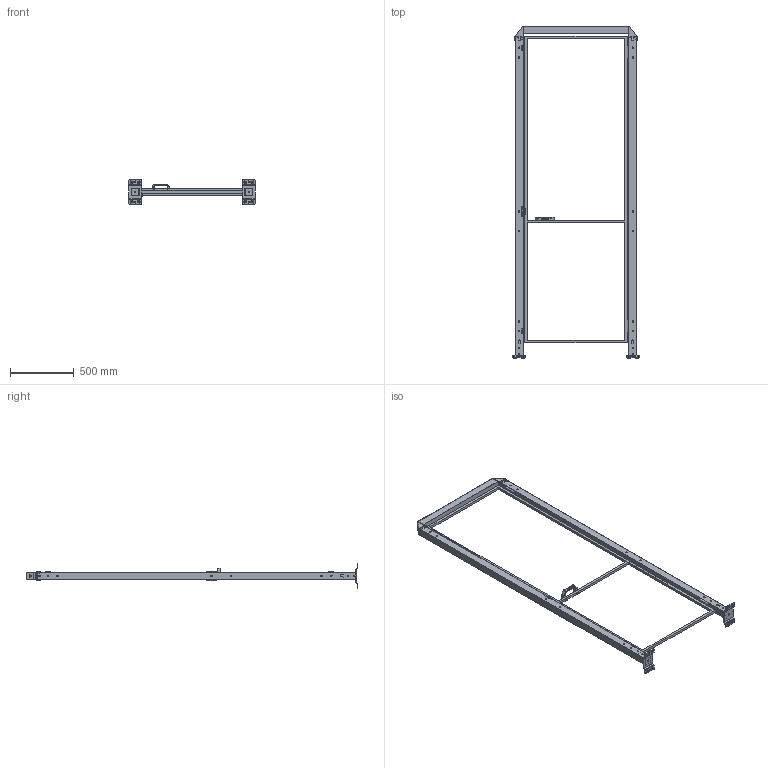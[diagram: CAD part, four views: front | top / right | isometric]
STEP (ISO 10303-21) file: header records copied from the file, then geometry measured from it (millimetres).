
FILE_DESCRIPTION(('STEP AP242'),'1');
FILE_NAME('vfda_bscndr2_08002520.stp','2025-01-23T13:51:21',('TraceParts'),('TraceParts S.A.'),'Spatial InterOp 3D',' ',' ');
FILE_SCHEMA(('AP242_MANAGED_MODEL_BASED_3D_ENGINEERING_MIM_LF {1 0 10303 442 1 1 4}'));
Length unit declared in the file: millimetre
Products named in the file (1): vfda_bscndr2_08002520_1
Bounding box: 990 x 2601 x 192 mm (x, y, z)
Volume: 5319732.7 mm3; surface area: 3546836.2 mm2
Topology: 12 solids, 12 shells, 1874 faces, 5016 edges, 3212 vertices
Faces by surface type: plane 906, cylinder 628, bspline 236, cone 60, torus 40, sphere 4
Entity records: 75648 total; most frequent: CARTESIAN_POINT 13827, ORIENTED_EDGE 10024, DIRECTION 9202, EDGE_CURVE 5012, VERTEX_POINT 3212, LINE 3072, VECTOR 3072, AXIS2_PLACEMENT_3D 3065
